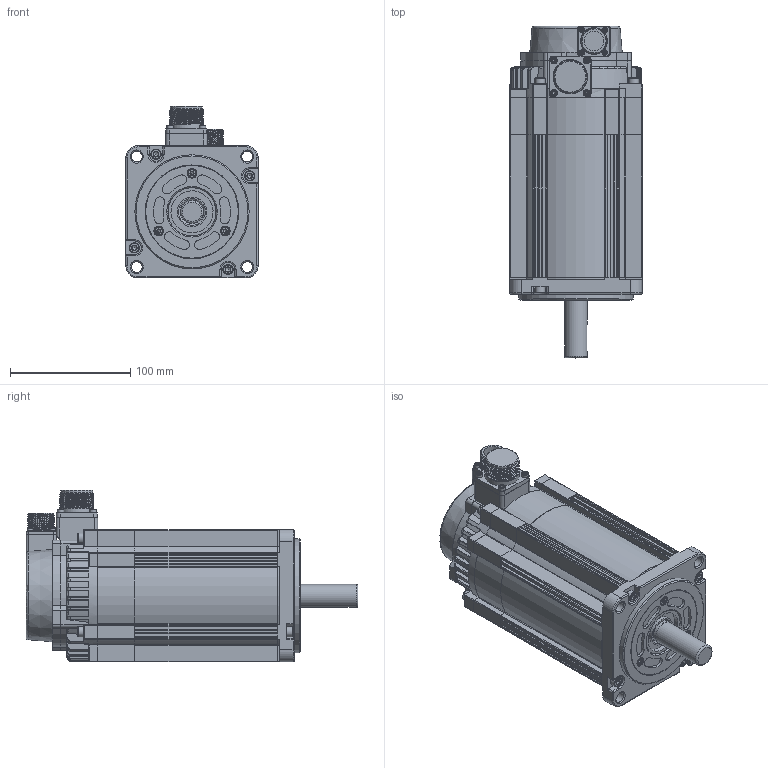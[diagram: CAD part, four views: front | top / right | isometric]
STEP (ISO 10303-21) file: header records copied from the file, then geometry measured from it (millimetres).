
FILE_DESCRIPTION(/* description */ (''),/* implementation_level */ '2;1');
FILE_NAME(/* name */ '110SY-M06020S1-Z.stp',/* time_stamp */ '2023-12-29T08:03:46+08:00',/* author */ (''),/* organization */ (''),/* preprocessor_version */ 'ST-DEVELOPER v18.1',/* originating_system */ 'SIEMENS PLM Software NX 2000',/* authorisation */ '');
FILE_SCHEMA (('AUTOMOTIVE_DESIGN { 1 0 10303 214 3 1 1 1 }'));
Length unit declared in the file: millimetre
Products named in the file (1): 110S1电机外形图(02030) 
Bounding box: 110 x 276 x 143 mm (x, y, z)
Volume: 2151425.1 mm3; surface area: 268692.9 mm2
Topology: 29 solids, 30 shells, 1449 faces, 3495 edges, 2128 vertices
Faces by surface type: plane 609, cylinder 472, cone 211, torus 98, bspline 41, sphere 18
Full cylindrical faces by diameter (mm): 1 x4, 2.3 x4, 2.38 x4, 2.5 x6, 2.874 x4, 3 x4, 3.3 x6, 3.838 x3, 4.2 x8, 4.5 x7, 4.826 x8, 5.5 x12, 7 x3, 8 x3, 8.5 x8, 9 x4, 16 x1, 19 x1, 19.6 x1, 20 x1, 22.288 x1, 24.616 x1, 25 x1, 26 x1, 26.6 x1, 28.5 x8, 35 x1, 40 x2, 77 x2, 95 x1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
Entity records: 47107 total; most frequent: CARTESIAN_POINT 14495, DIRECTION 6923, ORIENTED_EDGE 6362, EDGE_CURVE 3181, AXIS2_PLACEMENT_3D 2739, VERTEX_POINT 2080, EDGE_LOOP 1758, LINE 1445
